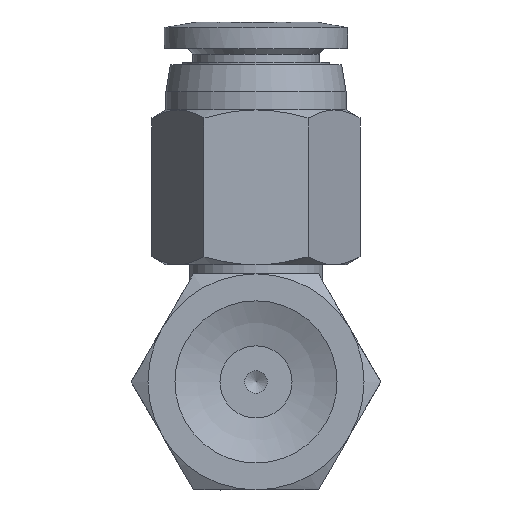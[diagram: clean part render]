
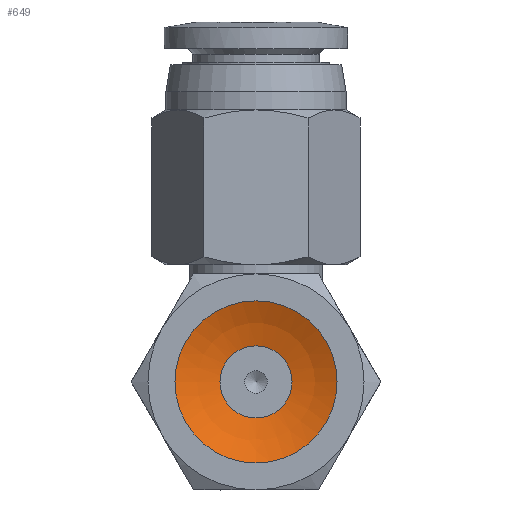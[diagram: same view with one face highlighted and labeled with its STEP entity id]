
A CAD part, front view. The second image highlights one B-rep face of the part: STEP entity #649.
In plain terms, the highlighted spherical face has radius 10.203 mm.
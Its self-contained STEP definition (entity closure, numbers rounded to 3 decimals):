
#649=ADVANCED_FACE('',(#1038,#1039),#1040,.F.);
#1038=FACE_OUTER_BOUND('',#1520,.T.);
#1039=FACE_OUTER_BOUND('',#1521,.T.);
#1040=SPHERICAL_SURFACE('',#1522,10.203);
#1520=EDGE_LOOP('',(#2800));
#1521=EDGE_LOOP('',(#2801));
#1522=AXIS2_PLACEMENT_3D('',#2802,#2803,#2804);
#2800=ORIENTED_EDGE('',*,*,#3416,.T.);
#2801=ORIENTED_EDGE('',*,*,#3407,.F.);
#2802=CARTESIAN_POINT('',(0.,-9.157,0.));
#2803=DIRECTION('',(0.0,-1.0,0.));
#2804=DIRECTION('',(1.0,0.0,0.0));
#3407=EDGE_CURVE('',#3921,#3921,#3922,.T.);
#3416=EDGE_CURVE('',#3939,#3939,#3940,.T.);
#3921=VERTEX_POINT('',#5125);
#3922=CIRCLE('',#5126,2.);
#3939=VERTEX_POINT('',#5143);
#3940=CIRCLE('',#5144,4.5);
#5125=CARTESIAN_POINT('',(0.0,0.848,-2.));
#5126=AXIS2_PLACEMENT_3D('',#5966,#5967,#5968);
#5143=CARTESIAN_POINT('',(0.0,0.,-4.5));
#5144=AXIS2_PLACEMENT_3D('',#5993,#5994,#5995);
#5966=CARTESIAN_POINT('',(0.0,0.848,0.0));
#5967=DIRECTION('',(0.0,-1.0,0.));
#5968=DIRECTION('',(0.0,0.,-1.0));
#5993=CARTESIAN_POINT('',(0.0,0.,0.0));
#5994=DIRECTION('',(0.0,-1.0,0.));
#5995=DIRECTION('',(0.0,0.,-1.0));
